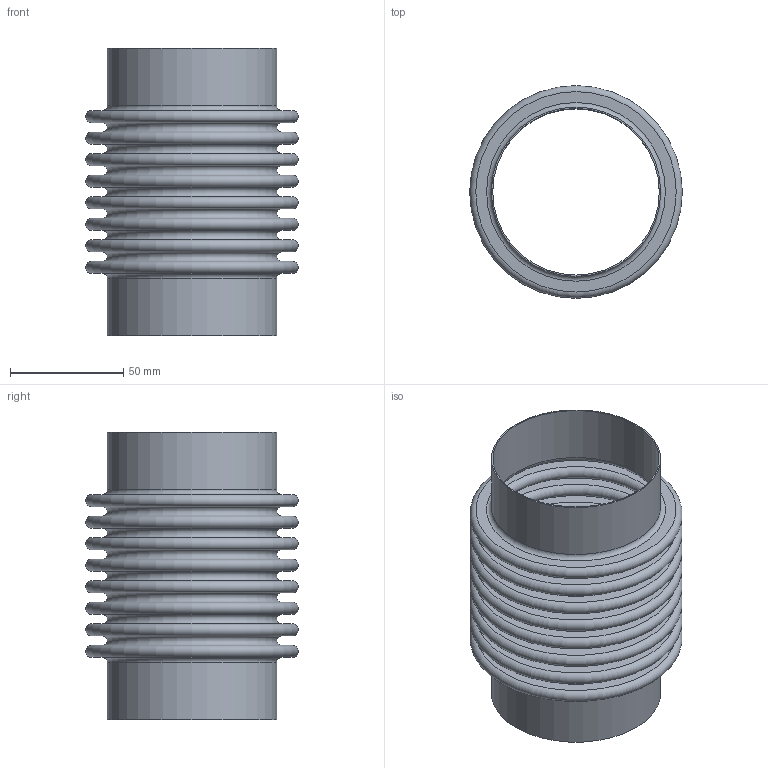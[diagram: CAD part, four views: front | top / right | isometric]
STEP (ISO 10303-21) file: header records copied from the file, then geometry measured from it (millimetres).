
FILE_DESCRIPTION(/* description */ ('','CAx-IF Rec.Pracs.---Representation and Presentation of Product Manufacturing Information (PMI)---4.0---2014-10-13'),/* implementation_level */ '2;1');
FILE_NAME(/* name */ 'US-2.5-8-150S.stp',/* time_stamp */ '2026-07-21T11:45:25-05:00',/* author */ ('Guadalupe'),/* organization */ (''),/* preprocessor_version */ 'ST-DEVELOPER v20.1',/* originating_system */ 'Autodesk Inventor 2026',/* authorisation */ '');
FILE_SCHEMA (('AP242_MANAGED_MODEL_BASED_3D_ENGINEERING_MIM_LF { 1 0 10303 442 2 1 4 }'));
Length unit declared in the file: inch
Products named in the file (1): STOCK BELLOW - US-2.5-8-150S_
Bounding box: 93.98 x 93.98 x 127 mm (x, y, z)
Volume: 38736.7 mm3; surface area: 127942.5 mm2
Topology: 3 solids, 3 shells, 76 faces, 114 edges, 76 vertices
Faces by surface type: plane 38, torus 34, cylinder 4
Full cylindrical faces by diameter (mm): 73.66 x2, 74.879 x2
Entity records: 1917 total; most frequent: DIRECTION 386, CARTESIAN_POINT 272, ORIENTED_EDGE 228, AXIS2_PLACEMENT_3D 191, EDGE_LOOP 114, EDGE_CURVE 114, CIRCLE 110, STYLED_ITEM 80
